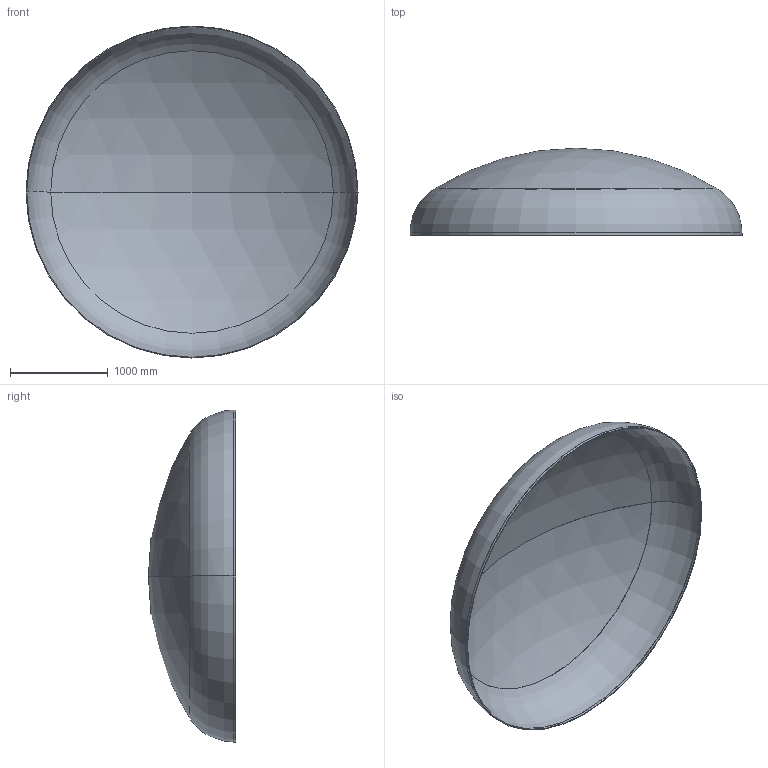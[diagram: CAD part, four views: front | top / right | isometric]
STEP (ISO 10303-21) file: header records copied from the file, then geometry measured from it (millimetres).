
FILE_DESCRIPTION (( 'STEP AP203' ), '1' );
FILE_NAME ('DIN 28013 Korbbogenform_-_Boden DIN 28013 - 3400 x 25 - I - s=7.step', '2016-07-01T19:07:54', ( '' ), ( '' ), 'SwSTEP 2.0', 'SolidWorks 2013', '' );
FILE_SCHEMA (( 'CONFIG_CONTROL_DESIGN' ));
Length unit declared in the file: millimetre
Products named in the file (1): DIN 28013 Korbbogenform_-_Boden DIN 28013 - 3400 x 25 - I - s=7
Bounding box: 3400 x 893.56 x 3400 mm (x, y, z)
Volume: 89701556.1 mm3; surface area: 25703724.1 mm2
Topology: 1 solids, 1 shells, 13 faces, 24 edges, 14 vertices
Faces by surface type: torus 4, cylinder 4, sphere 4, plane 1
Entity records: 407 total; most frequent: DIRECTION 72, CARTESIAN_POINT 52, ORIENTED_EDGE 48, AXIS2_PLACEMENT_3D 34, EDGE_CURVE 24, CIRCLE 20, VERTEX_POINT 14, EDGE_LOOP 14
